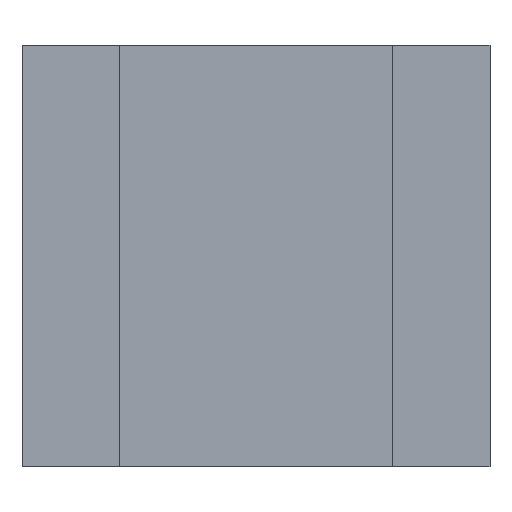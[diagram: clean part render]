
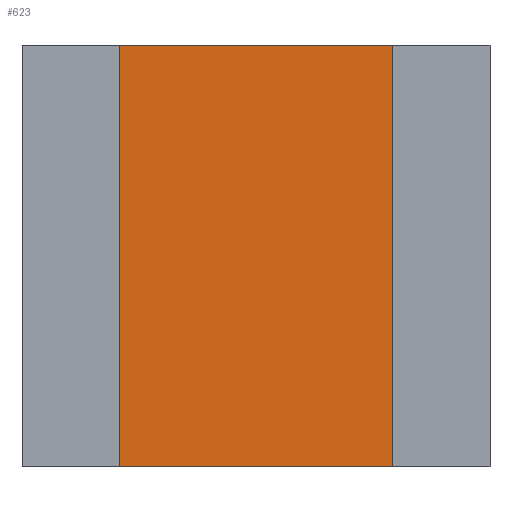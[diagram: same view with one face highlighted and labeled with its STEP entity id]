
A CAD part, left-side view. The second image highlights one B-rep face of the part: STEP entity #623.
In plain terms, the highlighted planar face has unit normal (-1, 0, 0).
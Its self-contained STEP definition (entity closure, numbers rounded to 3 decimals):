
#44 = PLANE('',#45);
#45 = AXIS2_PLACEMENT_3D('',#46,#47,#48);
#46 = CARTESIAN_POINT('',(-59.7,24.2,12.));
#47 = DIRECTION('',(0.,0.,1.));
#48 = DIRECTION('',(1.,0.,0.));
#100 = PLANE('',#101);
#101 = AXIS2_PLACEMENT_3D('',#102,#103,#104);
#102 = CARTESIAN_POINT('',(-59.7,24.2,-6.));
#103 = DIRECTION('',(0.,0.,1.));
#104 = DIRECTION('',(1.,0.,0.));
#126 = PLANE('',#127);
#127 = AXIS2_PLACEMENT_3D('',#128,#129,#130);
#128 = CARTESIAN_POINT('',(-60.7,28.35,-6.));
#129 = DIRECTION('',(0.,1.,0.));
#130 = DIRECTION('',(0.,0.,1.));
#250 = VERTEX_POINT('',#251);
#251 = CARTESIAN_POINT('',(-60.7,40.05,12.));
#265 = PLANE('',#266);
#266 = AXIS2_PLACEMENT_3D('',#267,#268,#269);
#267 = CARTESIAN_POINT('',(-60.7,40.05,-6.));
#268 = DIRECTION('',(0.,1.,0.));
#269 = DIRECTION('',(0.,0.,1.));
#277 = EDGE_CURVE('',#278,#250,#280,.T.);
#278 = VERTEX_POINT('',#279);
#279 = CARTESIAN_POINT('',(-60.7,28.35,12.));
#280 = SURFACE_CURVE('',#281,(#285,#292),.PCURVE_S1.);
#281 = LINE('',#282,#283);
#282 = CARTESIAN_POINT('',(-60.7,28.35,12.));
#283 = VECTOR('',#284,1.);
#284 = DIRECTION('',(0.,1.,0.));
#285 = PCURVE('',#44,#286);
#286 = DEFINITIONAL_REPRESENTATION('',(#287),#291);
#287 = LINE('',#288,#289);
#288 = CARTESIAN_POINT('',(-1.,4.15));
#289 = VECTOR('',#290,1.);
#290 = DIRECTION('',(0.,1.));
#291 = ( GEOMETRIC_REPRESENTATION_CONTEXT(2) 
PARAMETRIC_REPRESENTATION_CONTEXT() REPRESENTATION_CONTEXT('2D SPACE',''
  ) );
#292 = PCURVE('',#293,#298);
#293 = PLANE('',#294);
#294 = AXIS2_PLACEMENT_3D('',#295,#296,#297);
#295 = CARTESIAN_POINT('',(-60.7,28.35,-6.));
#296 = DIRECTION('',(1.,0.,0.));
#297 = DIRECTION('',(0.,0.,1.));
#298 = DEFINITIONAL_REPRESENTATION('',(#299),#303);
#299 = LINE('',#300,#301);
#300 = CARTESIAN_POINT('',(18.,0.));
#301 = VECTOR('',#302,1.);
#302 = DIRECTION('',(0.,-1.));
#303 = ( GEOMETRIC_REPRESENTATION_CONTEXT(2) 
PARAMETRIC_REPRESENTATION_CONTEXT() REPRESENTATION_CONTEXT('2D SPACE',''
  ) );
#330 = VERTEX_POINT('',#331);
#331 = CARTESIAN_POINT('',(-60.7,28.35,-6.));
#352 = EDGE_CURVE('',#330,#278,#353,.T.);
#353 = SURFACE_CURVE('',#354,(#358,#365),.PCURVE_S1.);
#354 = LINE('',#355,#356);
#355 = CARTESIAN_POINT('',(-60.7,28.35,-6.));
#356 = VECTOR('',#357,1.);
#357 = DIRECTION('',(0.,0.,1.));
#358 = PCURVE('',#126,#359);
#359 = DEFINITIONAL_REPRESENTATION('',(#360),#364);
#360 = LINE('',#361,#362);
#361 = CARTESIAN_POINT('',(0.,0.));
#362 = VECTOR('',#363,1.);
#363 = DIRECTION('',(1.,0.));
#364 = ( GEOMETRIC_REPRESENTATION_CONTEXT(2) 
PARAMETRIC_REPRESENTATION_CONTEXT() REPRESENTATION_CONTEXT('2D SPACE',''
  ) );
#365 = PCURVE('',#293,#366);
#366 = DEFINITIONAL_REPRESENTATION('',(#367),#371);
#367 = LINE('',#368,#369);
#368 = CARTESIAN_POINT('',(0.,0.));
#369 = VECTOR('',#370,1.);
#370 = DIRECTION('',(1.,0.));
#371 = ( GEOMETRIC_REPRESENTATION_CONTEXT(2) 
PARAMETRIC_REPRESENTATION_CONTEXT() REPRESENTATION_CONTEXT('2D SPACE',''
  ) );
#472 = VERTEX_POINT('',#473);
#473 = CARTESIAN_POINT('',(-60.7,40.05,-6.));
#494 = EDGE_CURVE('',#330,#472,#495,.T.);
#495 = SURFACE_CURVE('',#496,(#500,#507),.PCURVE_S1.);
#496 = LINE('',#497,#498);
#497 = CARTESIAN_POINT('',(-60.7,28.35,-6.));
#498 = VECTOR('',#499,1.);
#499 = DIRECTION('',(0.,1.,0.));
#500 = PCURVE('',#100,#501);
#501 = DEFINITIONAL_REPRESENTATION('',(#502),#506);
#502 = LINE('',#503,#504);
#503 = CARTESIAN_POINT('',(-1.,4.15));
#504 = VECTOR('',#505,1.);
#505 = DIRECTION('',(0.,1.));
#506 = ( GEOMETRIC_REPRESENTATION_CONTEXT(2) 
PARAMETRIC_REPRESENTATION_CONTEXT() REPRESENTATION_CONTEXT('2D SPACE',''
  ) );
#507 = PCURVE('',#293,#508);
#508 = DEFINITIONAL_REPRESENTATION('',(#509),#513);
#509 = LINE('',#510,#511);
#510 = CARTESIAN_POINT('',(0.,0.));
#511 = VECTOR('',#512,1.);
#512 = DIRECTION('',(0.,-1.));
#513 = ( GEOMETRIC_REPRESENTATION_CONTEXT(2) 
PARAMETRIC_REPRESENTATION_CONTEXT() REPRESENTATION_CONTEXT('2D SPACE',''
  ) );
#623 = ADVANCED_FACE('',(#624),#293,.F.);
#624 = FACE_BOUND('',#625,.F.);
#625 = EDGE_LOOP('',(#626,#627,#628,#649));
#626 = ORIENTED_EDGE('',*,*,#352,.F.);
#627 = ORIENTED_EDGE('',*,*,#494,.T.);
#628 = ORIENTED_EDGE('',*,*,#629,.T.);
#629 = EDGE_CURVE('',#472,#250,#630,.T.);
#630 = SURFACE_CURVE('',#631,(#635,#642),.PCURVE_S1.);
#631 = LINE('',#632,#633);
#632 = CARTESIAN_POINT('',(-60.7,40.05,-6.));
#633 = VECTOR('',#634,1.);
#634 = DIRECTION('',(0.,0.,1.));
#635 = PCURVE('',#293,#636);
#636 = DEFINITIONAL_REPRESENTATION('',(#637),#641);
#637 = LINE('',#638,#639);
#638 = CARTESIAN_POINT('',(0.,-11.7));
#639 = VECTOR('',#640,1.);
#640 = DIRECTION('',(1.,0.));
#641 = ( GEOMETRIC_REPRESENTATION_CONTEXT(2) 
PARAMETRIC_REPRESENTATION_CONTEXT() REPRESENTATION_CONTEXT('2D SPACE',''
  ) );
#642 = PCURVE('',#265,#643);
#643 = DEFINITIONAL_REPRESENTATION('',(#644),#648);
#644 = LINE('',#645,#646);
#645 = CARTESIAN_POINT('',(0.,0.));
#646 = VECTOR('',#647,1.);
#647 = DIRECTION('',(1.,0.));
#648 = ( GEOMETRIC_REPRESENTATION_CONTEXT(2) 
PARAMETRIC_REPRESENTATION_CONTEXT() REPRESENTATION_CONTEXT('2D SPACE',''
  ) );
#649 = ORIENTED_EDGE('',*,*,#277,.F.);
